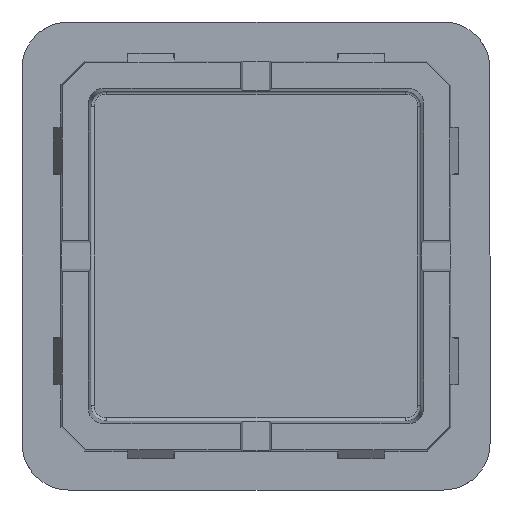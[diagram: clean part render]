
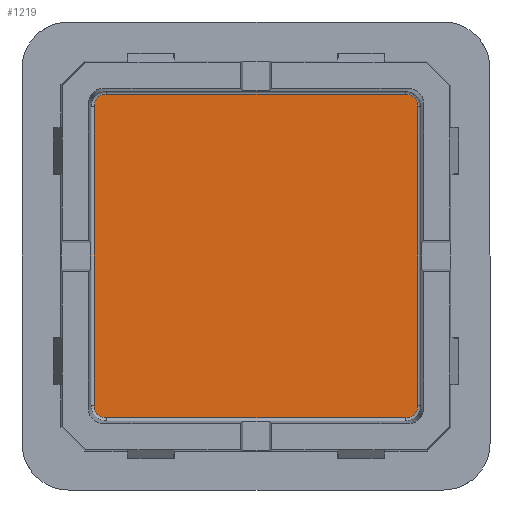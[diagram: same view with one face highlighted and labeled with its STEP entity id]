
A CAD part, front view. The second image highlights one B-rep face of the part: STEP entity #1219.
In plain terms, the highlighted planar face has unit normal (0, -1, 0).
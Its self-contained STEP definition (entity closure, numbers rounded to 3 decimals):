
#91 =( BOUNDED_CURVE ( )  B_SPLINE_CURVE ( 3, ( #4128, #1151, #3122, #495 ),
 .UNSPECIFIED., .F., .T. ) 
 B_SPLINE_CURVE_WITH_KNOTS ( ( 4, 4 ),
 ( 2.356, 3.927 ),
 .UNSPECIFIED. ) 
 CURVE ( )  GEOMETRIC_REPRESENTATION_ITEM ( )  RATIONAL_B_SPLINE_CURVE ( ( 1., 0.805, 0.805, 1. ) ) 
 REPRESENTATION_ITEM ( '' )  );
#349 = CARTESIAN_POINT ( 'NONE',  ( 9.576, 0.5, -10.379 ) ) ;
#495 = CARTESIAN_POINT ( 'NONE',  ( -10.379, 0.5, 9.579 ) ) ;
#548 = CARTESIAN_POINT ( 'NONE',  ( -10.379, 0.5, -9.579 ) ) ;
#556 = DIRECTION ( 'NONE',  ( 0., 0., 1. ) ) ;
#561 = EDGE_CURVE ( 'NONE', #3659, #628, #4189, .T. ) ;
#608 = EDGE_CURVE ( 'NONE', #628, #1871, #4216, .T. ) ;
#614 = EDGE_CURVE ( 'NONE', #887, #1261, #817, .T. ) ;
#628 = VERTEX_POINT ( 'NONE', #2886 ) ;
#690 = DIRECTION ( 'NONE',  ( 1., 0., 0. ) ) ;
#754 = CARTESIAN_POINT ( 'NONE',  ( -10.379, 0.5, -9.579 ) ) ;
#768 = VECTOR ( 'NONE', #690, 1000. ) ;
#803 = CARTESIAN_POINT ( 'NONE',  ( 9.579, 0.5, -10.379 ) ) ;
#817 =( BOUNDED_CURVE ( )  B_SPLINE_CURVE ( 3, ( #548, #3853, #1231, #4205 ),
 .UNSPECIFIED., .F., .F. ) 
 B_SPLINE_CURVE_WITH_KNOTS ( ( 4, 4 ),
 ( 2.356, 3.927 ),
 .UNSPECIFIED. ) 
 CURVE ( )  GEOMETRIC_REPRESENTATION_ITEM ( )  RATIONAL_B_SPLINE_CURVE ( ( 1., 0.805, 0.805, 1. ) ) 
 REPRESENTATION_ITEM ( '' )  );
#859 = ORIENTED_EDGE ( 'NONE', *, *, #614, .T. ) ;
#887 = VERTEX_POINT ( 'NONE', #754 ) ;
#1151 = CARTESIAN_POINT ( 'NONE',  ( -10.048, 0.5, 10.379 ) ) ;
#1219 = ADVANCED_FACE ( 'NONE', ( #3258 ), #3250, .F. ) ;
#1231 = CARTESIAN_POINT ( 'NONE',  ( -10.048, 0.5, -10.379 ) ) ;
#1240 = VERTEX_POINT ( 'NONE', #1615 ) ;
#1261 = VERTEX_POINT ( 'NONE', #3636 ) ;
#1316 = VECTOR ( 'NONE', #556, 1000. ) ;
#1385 = DIRECTION ( 'NONE',  ( -1., 0., 0. ) ) ;
#1505 = ORIENTED_EDGE ( 'NONE', *, *, #1847, .T. ) ;
#1613 = EDGE_CURVE ( 'NONE', #1240, #887, #3724, .T. ) ;
#1615 = CARTESIAN_POINT ( 'NONE',  ( -10.379, 0.5, 9.579 ) ) ;
#1815 = CARTESIAN_POINT ( 'NONE',  ( -9.579, 0.5, 10.379 ) ) ;
#1835 = ORIENTED_EDGE ( 'NONE', *, *, #4181, .T. ) ;
#1847 = EDGE_CURVE ( 'NONE', #2215, #2787, #4248, .T. ) ;
#1871 = VERTEX_POINT ( 'NONE', #2396 ) ;
#1908 = CARTESIAN_POINT ( 'NONE',  ( 10.048, 0.5, 10.379 ) ) ;
#2004 = CARTESIAN_POINT ( 'NONE',  ( -9.576, 0.5, 10.379 ) ) ;
#2145 = DIRECTION ( 'NONE',  ( 0., 0., -1. ) ) ;
#2215 = VERTEX_POINT ( 'NONE', #3758 ) ;
#2236 = AXIS2_PLACEMENT_3D ( 'NONE', #2619, #2315, #2919 ) ;
#2315 = DIRECTION ( 'NONE',  ( 0., 1., 0. ) ) ;
#2369 = ORIENTED_EDGE ( 'NONE', *, *, #3479, .T. ) ;
#2396 = CARTESIAN_POINT ( 'NONE',  ( 10.379, 0.5, 9.579 ) ) ;
#2619 = CARTESIAN_POINT ( 'NONE',  ( 0., 0.5, 0. ) ) ;
#2787 = VERTEX_POINT ( 'NONE', #1815 ) ;
#2860 = CARTESIAN_POINT ( 'NONE',  ( 10.379, 0.5, 9.579 ) ) ;
#2866 = CARTESIAN_POINT ( 'NONE',  ( 10.048, 0.5, -10.379 ) ) ;
#2886 = CARTESIAN_POINT ( 'NONE',  ( 10.379, 0.5, -9.579 ) ) ;
#2919 = DIRECTION ( 'NONE',  ( 0., 0., 1. ) ) ;
#2929 = ORIENTED_EDGE ( 'NONE', *, *, #561, .T. ) ;
#3122 = CARTESIAN_POINT ( 'NONE',  ( -10.379, 0.5, 10.048 ) ) ;
#3178 = CARTESIAN_POINT ( 'NONE',  ( 9.579, 0.5, -10.379 ) ) ;
#3250 = PLANE ( 'NONE',  #2236 ) ;
#3258 = FACE_OUTER_BOUND ( 'NONE', #3768, .T. ) ;
#3336 = LINE ( 'NONE', #349, #768 ) ;
#3479 = EDGE_CURVE ( 'NONE', #1261, #3659, #3336, .T. ) ;
#3506 = CARTESIAN_POINT ( 'NONE',  ( 10.379, 0.5, -10.048 ) ) ;
#3528 = ORIENTED_EDGE ( 'NONE', *, *, #4066, .T. ) ;
#3535 = CARTESIAN_POINT ( 'NONE',  ( 10.379, 0.5, 9.576 ) ) ;
#3582 =( BOUNDED_CURVE ( )  B_SPLINE_CURVE ( 3, ( #2860, #3877, #1908, #3846 ),
 .UNSPECIFIED., .F., .T. ) 
 B_SPLINE_CURVE_WITH_KNOTS ( ( 4, 4 ),
 ( 2.356, 3.927 ),
 .UNSPECIFIED. ) 
 CURVE ( )  GEOMETRIC_REPRESENTATION_ITEM ( )  RATIONAL_B_SPLINE_CURVE ( ( 1., 0.805, 0.805, 1. ) ) 
 REPRESENTATION_ITEM ( '' )  );
#3601 = VECTOR ( 'NONE', #1385, 1000. ) ;
#3636 = CARTESIAN_POINT ( 'NONE',  ( -9.579, 0.5, -10.379 ) ) ;
#3659 = VERTEX_POINT ( 'NONE', #803 ) ;
#3724 = LINE ( 'NONE', #4137, #4047 ) ;
#3758 = CARTESIAN_POINT ( 'NONE',  ( 9.579, 0.5, 10.379 ) ) ;
#3768 = EDGE_LOOP ( 'NONE', ( #4040, #1835, #1505, #3528, #4094, #859, #2369, #2929 ) ) ;
#3846 = CARTESIAN_POINT ( 'NONE',  ( 9.579, 0.5, 10.379 ) ) ;
#3853 = CARTESIAN_POINT ( 'NONE',  ( -10.379, 0.5, -10.048 ) ) ;
#3877 = CARTESIAN_POINT ( 'NONE',  ( 10.379, 0.5, 10.048 ) ) ;
#4040 = ORIENTED_EDGE ( 'NONE', *, *, #608, .T. ) ;
#4047 = VECTOR ( 'NONE', #2145, 1000. ) ;
#4066 = EDGE_CURVE ( 'NONE', #2787, #1240, #91, .T. ) ;
#4094 = ORIENTED_EDGE ( 'NONE', *, *, #1613, .T. ) ;
#4128 = CARTESIAN_POINT ( 'NONE',  ( -9.579, 0.5, 10.379 ) ) ;
#4137 = CARTESIAN_POINT ( 'NONE',  ( -10.379, 0.5, -9.576 ) ) ;
#4181 = EDGE_CURVE ( 'NONE', #1871, #2215, #3582, .T. ) ;
#4189 =( BOUNDED_CURVE ( )  B_SPLINE_CURVE ( 3, ( #3178, #2866, #3506, #4223 ),
 .UNSPECIFIED., .F., .T. ) 
 B_SPLINE_CURVE_WITH_KNOTS ( ( 4, 4 ),
 ( 2.356, 3.927 ),
 .UNSPECIFIED. ) 
 CURVE ( )  GEOMETRIC_REPRESENTATION_ITEM ( )  RATIONAL_B_SPLINE_CURVE ( ( 1., 0.805, 0.805, 1. ) ) 
 REPRESENTATION_ITEM ( '' )  );
#4205 = CARTESIAN_POINT ( 'NONE',  ( -9.579, 0.5, -10.379 ) ) ;
#4216 = LINE ( 'NONE', #3535, #1316 ) ;
#4223 = CARTESIAN_POINT ( 'NONE',  ( 10.379, 0.5, -9.579 ) ) ;
#4248 = LINE ( 'NONE', #2004, #3601 ) ;
